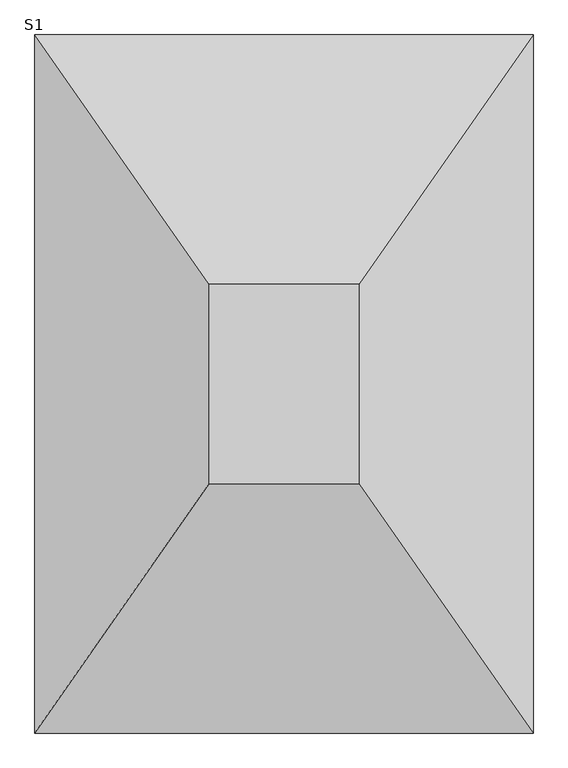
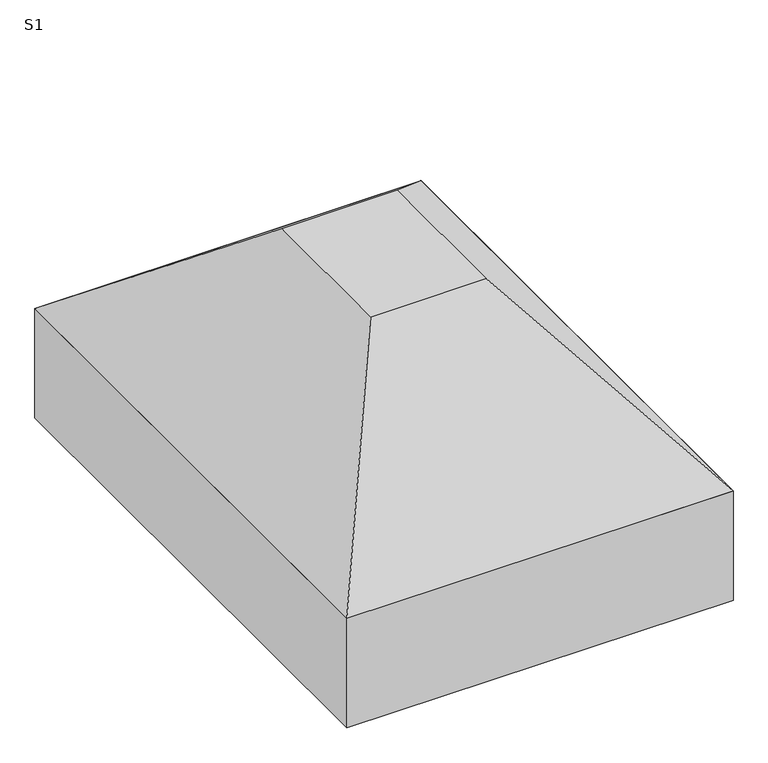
"""IFC4 building model written with IfcOpenShell, lengths in millimetres: fastener geometry, TQS - Sapata : S1."""

from ifc_helpers import new_model, si_unit, frame, origin, place, context, project, spatial, polyline, outline, extrude, faceted_brep, source, transform, mapped, element, save


def s1_65c3dab8(model_context):
    return source(origin(), model_context, "Body", "SolidModel", [
        faceted_brep([(-50.0, 0.0, 0.0), (-350.0, 0.0, 0.0), (-350.0, -400.0, 0.0), (-50.0, -400.0, 0.0), (300.0, 500.0, -400.0), (300.0, -900.0, -400.0), (-700.0, -900.0, -400.0), (-700.0, 500.0, -400.0)], [[[0, 1, 2, 3]], [[4, 5, 6, 7]], [[4, 7, 1, 0]], [[7, 6, 2, 1]], [[6, 5, 3, 2]], [[5, 4, 0, 3]]]),
        extrude(outline(polyline([(300.0, 500.0), (300.0, -900.0), (-700.0, -900.0), (-700.0, 500.0), (300.0, 500.0)])), frame((0.0, 0.0, -700.0), z_axis=(0.0, 0.0, 1.0), x_axis=(1.0, 0.0, 0.0)), (0.0, 0.0, 1.0), 300.0),
    ])


if __name__ == "__main__":
    model = new_model("IFC4")
    model_context = context("Model", 3, world=origin())
    ifc_project = project(units=[si_unit("LENGTHUNIT", "METRE", prefix="MILLI")], contexts=[model_context])
    site = spatial("IfcSite", under=ifc_project)
    building = spatial("IfcBuilding", under=site)
    placement = place(None, origin())
    s1_shape = s1_65c3dab8(model_context)
    element("IfcFastener", 1, ObjectType="TQS - Sapata : S1", at=placement, inside=building, context=model_context, shape_type="MappedRepresentation", body=[
        mapped(s1_shape, transform((0.0, 0.0, 0.0), x_axis=(1.0, 0.0, 0.0), y_axis=(0.0, 1.0, 0.0), z_axis=(0.0, 0.0, 1.0))),
    ])
    save(model, "model.ifc")
